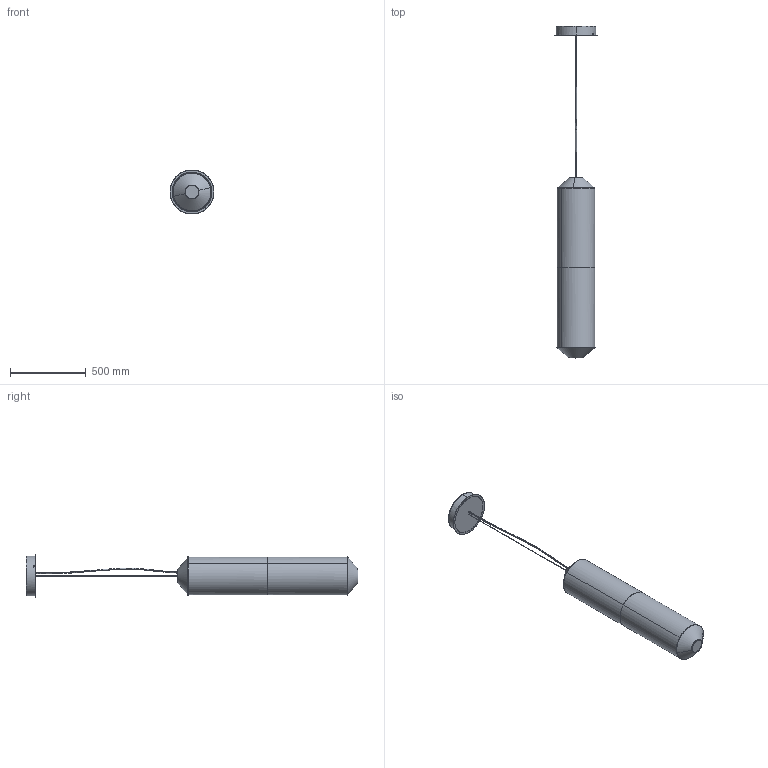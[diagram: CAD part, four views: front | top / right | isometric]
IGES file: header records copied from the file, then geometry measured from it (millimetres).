
Start section: SolidWorks IGES file using analytic representation for surfaces
Global section: file name: C:\SANTACOLE_PDM\Proyectos Catálogo\PROD-P16-018 -- TEKIO\6_Técnico comercial\3D\Tekio Vertical\Tekio Vertical P2\Tekio Vertical P2.IGS; native system: SolidWorks 2019; preprocessor: SolidWorks 2019; author: aina.morell; date: 200406.181710; units: millimetre
Bounding box: 290 x 2189.01 x 290 mm (x, y, z)
Surface area: 2278868.9 mm2 (no closed solid volume)
Topology: 0 solids, 0 shells, 184 faces, 4011 edges, 4011 vertices
Faces by surface type: bspline 180, revolution 4
